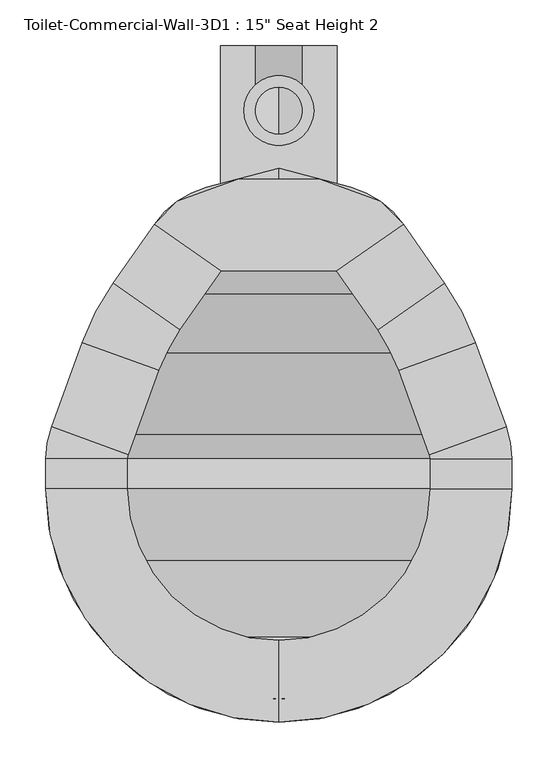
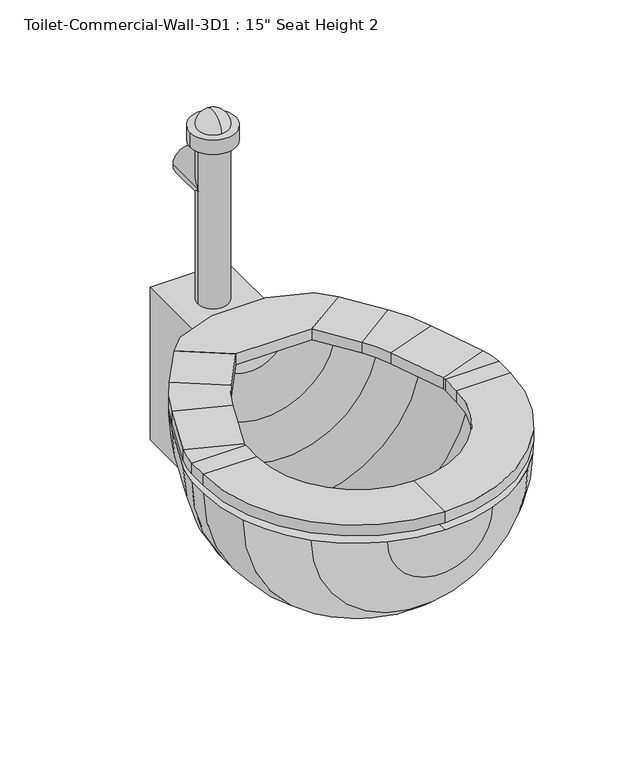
"""IFC4 building model written with IfcOpenShell, lengths in millimetres: flow terminal geometry."""

from ifc_helpers import new_model, si_unit, point, frame, frame_2d, origin, place, context, project, spatial, polyline, circle_curve, ellipse_curve, trimmed, segment, composite_curve, outline, extrude, source, transform, mapped, element, save
from ifc_brep_helpers import plane_surface, cylinder_surface, revolved_surface, advanced_brep


def flow_terminal_f7b7a87d(model_context):
    return source(origin(), model_context, "Body", "SolidModel", [
        extrude(outline(polyline([(467.7541169, -416.4847495), (342.0521907, -416.4847495), (269.229574, -365.4938043), (294.1800557, -340.5433226), (360.2423986, -316.4985961), (449.563909, -316.4985961), (515.6262519, -340.5433226), (540.5767337, -365.4938043), (467.7541169, -416.4847495)])), frame((0.0, 0.0, 355.6), z_axis=(0.0, 0.0, 1.0), x_axis=(1.0, 0.0, 0.0)), (0.0, 0.0, 1.0), 19.05),
        advanced_brep(
        [(467.7541169, -416.4847495, 355.6), (467.7541169, -416.4847495, 374.65), (540.5767337, -365.4938043, 374.65), (540.5767337, -365.4938043, 355.6), (585.6810159, -429.9093951, 355.6), (512.8583992, -480.9003403, 355.6), (585.6810159, -429.9093951, 374.65), (512.8583992, -480.9003403, 374.65), (619.360053, -494.6062234, 355.6), (535.821379, -525.0118141, 355.6), (619.360053, -494.6062234, 374.65), (535.821379, -525.0118141, 374.65), (652.7759241, -586.4155747, 355.6), (569.2372501, -616.8211654, 355.6), (652.7759241, -586.4155747, 374.65), (569.2372501, -616.8211654, 374.65), (658.9031538, -621.1648212, 355.6), (570.0031538, -621.1648212, 355.6), (658.9031538, -621.1648212, 374.65), (570.0031538, -621.1648212, 374.65), (658.9031538, -654.05, 355.6), (570.0031538, -654.05, 355.6), (658.9031538, -654.05, 374.65), (570.0031538, -654.05, 374.65), (404.9031538, -908.05, 355.6), (404.9031538, -819.15, 355.6), (404.9031538, -908.05, 374.65), (404.9031538, -819.15, 374.65), (150.9031538, -654.05, 355.6), (239.8031538, -654.05, 355.6), (150.9031538, -654.05, 374.65), (239.8031538, -654.05, 374.65), (150.9031538, -621.1648212, 355.6), (239.8031538, -621.1648212, 355.6), (150.9031538, -621.1648212, 374.65), (239.8031538, -621.1648212, 374.65), (157.0303835, -586.4155747, 355.6), (240.5690575, -616.8211654, 355.6), (157.0303835, -586.4155747, 374.65), (240.5690575, -616.8211654, 374.65), (190.4462546, -494.6062234, 355.6), (273.9849286, -525.0118141, 355.6), (190.4462546, -494.6062234, 374.65), (273.9849286, -525.0118141, 374.65), (224.1252917, -429.9093951, 355.6), (296.9479084, -480.9003403, 355.6), (224.1252917, -429.9093951, 374.65), (296.9479084, -480.9003403, 374.65), (342.0521907, -416.4847495, 355.6), (269.229574, -365.4938043, 355.6), (269.229574, -365.4938043, 374.65), (342.0521907, -416.4847495, 374.65)],
        [
            (0, 1),
            (1, 2),
            (2, 3),
            (3, 0),
            (3, 4),
            (4, 5),
            (5, 0),
            (2, 6),
            (6, 4),
            (1, 7),
            (7, 6),
            (5, 7),
            (8, 9),
            (9, 5, circle_curve(frame((356.8099347, -590.1666514, 355.6), z_axis=(0.0, 0.0, 1.0), x_axis=(0.81915204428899, 0.5735764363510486, 0.0)), 190.5)),
            (4, 8, circle_curve(frame((356.8099347, -590.1666514, 355.6), z_axis=(0.0, 0.0, -1.0), x_axis=(0.81915204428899, 0.5735764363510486, 0.0)), 279.4)),
            (10, 8),
            (6, 10, circle_curve(frame((356.8099347, -590.1666514, 374.65), z_axis=(0.0, 0.0, -1.0), x_axis=(0.81915204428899, 0.5735764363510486, 0.0)), 279.4)),
            (11, 10),
            (7, 11, circle_curve(frame((356.8099347, -590.1666514, 374.65), z_axis=(0.0, 0.0, -1.0), x_axis=(0.81915204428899, 0.5735764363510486, 0.0)), 190.5)),
            (9, 11),
            (8, 12),
            (12, 13),
            (13, 9),
            (10, 14),
            (14, 12),
            (11, 15),
            (15, 14),
            (13, 15),
            (16, 17),
            (17, 13, circle_curve(frame((557.3031538, -621.1648212, 355.6), z_axis=(0.0, 0.0, 1.0), x_axis=(0.9396926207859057, 0.3420201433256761, 0.0)), 12.7)),
            (12, 16, circle_curve(frame((557.3031538, -621.1648212, 355.6), z_axis=(0.0, 0.0, -1.0), x_axis=(0.9396926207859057, 0.3420201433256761, 0.0)), 101.6)),
            (18, 16),
            (14, 18, circle_curve(frame((557.3031538, -621.1648212, 374.65), z_axis=(0.0, 0.0, -1.0), x_axis=(0.9396926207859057, 0.3420201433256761, 0.0)), 101.6)),
            (19, 18),
            (15, 19, circle_curve(frame((557.3031538, -621.1648212, 374.65), z_axis=(0.0, 0.0, -1.0), x_axis=(0.9396926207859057, 0.3420201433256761, 0.0)), 12.7)),
            (17, 19),
            (16, 20),
            (20, 21),
            (21, 17),
            (18, 22),
            (22, 20),
            (19, 23),
            (23, 22),
            (21, 23),
            (24, 25),
            (25, 21, circle_curve(frame((404.9031538, -654.05, 355.6), z_axis=(0.0, 0.0, 1.0), x_axis=(1.0, 0.0, 0.0)), 165.1)),
            (20, 24, circle_curve(frame((404.9031538, -654.05, 355.6), z_axis=(0.0, 0.0, -1.0), x_axis=(1.0, 0.0, 0.0)), 254.0)),
            (26, 24),
            (22, 26, circle_curve(frame((404.9031538, -654.05, 374.65), z_axis=(0.0, 0.0, -1.0), x_axis=(1.0, 0.0, 0.0)), 254.0)),
            (27, 26),
            (23, 27, circle_curve(frame((404.9031538, -654.05, 374.65), z_axis=(0.0, 0.0, -1.0), x_axis=(1.0, 0.0, 0.0)), 165.1)),
            (25, 27),
            (28, 29),
            (29, 25, circle_curve(frame((404.9031538, -654.05, 355.6), z_axis=(0.0, 0.0, 1.0), x_axis=(0.0, -1.0, 0.0)), 165.1)),
            (24, 28, circle_curve(frame((404.9031538, -654.05, 355.6), z_axis=(0.0, 0.0, -1.0), x_axis=(0.0, -1.0, 0.0)), 254.0)),
            (30, 28),
            (26, 30, circle_curve(frame((404.9031538, -654.05, 374.65), z_axis=(0.0, 0.0, -1.0), x_axis=(0.0, -1.0, 0.0)), 254.0)),
            (31, 30),
            (27, 31, circle_curve(frame((404.9031538, -654.05, 374.65), z_axis=(0.0, 0.0, -1.0), x_axis=(0.0, -1.0, 0.0)), 165.1)),
            (29, 31),
            (28, 32),
            (32, 33),
            (33, 29),
            (30, 34),
            (34, 32),
            (31, 35),
            (35, 34),
            (33, 35),
            (36, 37),
            (37, 33, circle_curve(frame((252.5031538, -621.1648212, 355.6), z_axis=(0.0, 0.0, 1.0), x_axis=(-1.0, 0.0, 0.0)), 12.7)),
            (32, 36, circle_curve(frame((252.5031538, -621.1648212, 355.6), z_axis=(0.0, 0.0, -1.0), x_axis=(-1.0, 0.0, 0.0)), 101.6)),
            (38, 36),
            (34, 38, circle_curve(frame((252.5031538, -621.1648212, 374.65), z_axis=(0.0, 0.0, -1.0), x_axis=(-1.0, 0.0, 0.0)), 101.6)),
            (39, 38),
            (35, 39, circle_curve(frame((252.5031538, -621.1648212, 374.65), z_axis=(0.0, 0.0, -1.0), x_axis=(-1.0, 0.0, 0.0)), 12.7)),
            (37, 39),
            (36, 40),
            (40, 41),
            (41, 37),
            (38, 42),
            (42, 40),
            (39, 43),
            (43, 42),
            (41, 43),
            (44, 45),
            (45, 41, circle_curve(frame((452.9963729, -590.1666514, 355.6), z_axis=(0.0, 0.0, 1.0), x_axis=(-0.939692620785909, 0.3420201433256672, 0.0)), 190.5)),
            (40, 44, circle_curve(frame((452.9963729, -590.1666514, 355.6), z_axis=(0.0, 0.0, -1.0), x_axis=(-0.939692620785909, 0.3420201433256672, 0.0)), 279.4)),
            (46, 44),
            (42, 46, circle_curve(frame((452.9963729, -590.1666514, 374.65), z_axis=(0.0, 0.0, -1.0), x_axis=(-0.939692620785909, 0.3420201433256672, 0.0)), 279.4)),
            (47, 46),
            (43, 47, circle_curve(frame((452.9963729, -590.1666514, 374.65), z_axis=(0.0, 0.0, -1.0), x_axis=(-0.939692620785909, 0.3420201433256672, 0.0)), 190.5)),
            (45, 47),
            (48, 49),
            (49, 50),
            (50, 51),
            (51, 48),
            (44, 49),
            (48, 45),
            (46, 50),
            (47, 51),
        ],
        [
            plane_surface(frame((540.5767337, -365.4938043, 437.2995365), z_axis=(-0.5735764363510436, 0.8191520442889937, 0.0), x_axis=(0.8191520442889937, 0.5735764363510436, 0.0))),
            plane_surface(frame((467.7541169, -416.4847495, 355.6), z_axis=(0.0, 0.0, -1.0), x_axis=(0.5735764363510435, -0.8191520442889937, 0.0))),
            plane_surface(frame((540.5767337, -365.4938043, 355.6), z_axis=(0.8191520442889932, 0.5735764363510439, 0.0), x_axis=(0.5735764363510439, -0.8191520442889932, 0.0))),
            plane_surface(frame((540.5767337, -365.4938043, 374.65), z_axis=(0.0, 0.0, 1.0), x_axis=(0.573576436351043, -0.819152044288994, 0.0))),
            plane_surface(frame((467.7541169, -416.4847495, 374.65), z_axis=(-0.8191520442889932, -0.5735764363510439, 0.0), x_axis=(0.5735764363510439, -0.8191520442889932, 0.0))),
            plane_surface(frame((356.8099347, -590.1666514, 355.6), z_axis=(0.0, 0.0, -1.0), x_axis=(0.81915204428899, 0.5735764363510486, 0.0))),
            cylinder_surface(frame((356.8099347, -590.1666514, 342.9), z_axis=(0.0, 0.0, 1.0), x_axis=(0.81915204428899, 0.5735764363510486, 0.0)), 279.4),
            plane_surface(frame((356.8099347, -590.1666514, 374.65), z_axis=(0.0, 0.0, 1.0), x_axis=(0.81915204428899, 0.5735764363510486, 0.0))),
            revolved_surface(polyline([(512.8583991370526, -480.90034027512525, 374.65), (512.8583991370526, -480.90034027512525, 355.6)]), (356.8099347, -590.1666514, 342.9), (0.0, 0.0, 1.0)),
            plane_surface(frame((535.821379, -525.0118141, 355.6), z_axis=(0.0, 0.0, -1.0000000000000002), x_axis=(0.3420201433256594, -0.9396926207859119, 0.0))),
            plane_surface(frame((619.360053, -494.6062234, 355.6), z_axis=(0.939692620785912, 0.34202014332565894, 0.0), x_axis=(0.34202014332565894, -0.939692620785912, 0.0))),
            plane_surface(frame((619.360053, -494.6062234, 374.65), z_axis=(0.0, 0.0, 1.0), x_axis=(0.34202014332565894, -0.939692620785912, 0.0))),
            plane_surface(frame((535.821379, -525.0118141, 374.65), z_axis=(-0.9396926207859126, -0.3420201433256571, 0.0), x_axis=(0.3420201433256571, -0.9396926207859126, 0.0))),
            plane_surface(frame((557.3031538, -621.1648212, 355.6), z_axis=(0.0, 0.0, -1.0000000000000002), x_axis=(0.9396926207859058, 0.34202014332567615, 0.0))),
            cylinder_surface(frame((557.3031538, -621.1648212, 342.9), z_axis=(0.0, 0.0, 1.0), x_axis=(0.9396926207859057, 0.3420201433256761, 0.0)), 101.6),
            plane_surface(frame((557.3031538, -621.1648212, 374.65), z_axis=(0.0, 0.0, 1.0000000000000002), x_axis=(0.9396926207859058, 0.34202014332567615, 0.0))),
            revolved_surface(polyline([(569.237250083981, -616.8211653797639, 374.65), (569.237250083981, -616.8211653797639, 355.6)]), (557.3031538, -621.1648212, 342.9), (0.0, 0.0, 1.0)),
            plane_surface(frame((570.0031538, -621.1648212, 355.6), z_axis=(0.0, 0.0, -1.0), x_axis=(0.0, -1.0, 0.0))),
            plane_surface(frame((658.9031538, -621.1648212, 355.6), z_axis=(1.0, 0.0, 0.0), x_axis=(0.0, -1.0, 0.0))),
            plane_surface(frame((658.9031538, -621.1648212, 374.65), z_axis=(0.0, 0.0, 1.0), x_axis=(0.0, -1.0, 0.0))),
            plane_surface(frame((570.0031538, -621.1648212, 374.65), z_axis=(-1.0, 0.0, 0.0), x_axis=(0.0, -1.0, 0.0))),
            plane_surface(frame((404.9031538, -654.05, 355.6), z_axis=(0.0, 0.0, -1.0), x_axis=(1.0, 0.0, 0.0))),
            cylinder_surface(frame((404.9031538, -654.05, 342.9), z_axis=(0.0, 0.0, 1.0), x_axis=(1.0, 0.0, 0.0)), 254.0),
            plane_surface(frame((404.9031538, -654.05, 374.65), z_axis=(0.0, 0.0, 1.0), x_axis=(1.0, 0.0, 0.0))),
            revolved_surface(polyline([(570.0031538, -654.05, 374.65), (570.0031538, -654.05, 355.6)]), (404.9031538, -654.05, 342.9), (0.0, 0.0, 1.0)),
            plane_surface(frame((404.9031538, -654.05, 355.6), z_axis=(0.0, 0.0, -1.0), x_axis=(0.0, -1.0, 0.0))),
            cylinder_surface(frame((404.9031538, -654.05, 342.9), z_axis=(0.0, 0.0, 1.0), x_axis=(0.0, -1.0, 0.0)), 254.0),
            plane_surface(frame((404.9031538, -654.05, 374.65), z_axis=(0.0, 0.0, 1.0), x_axis=(0.0, -1.0, 0.0))),
            revolved_surface(polyline([(404.9031538, -819.15, 374.65), (404.9031538, -819.15, 355.6)]), (404.9031538, -654.05, 342.9), (0.0, 0.0, 1.0)),
            plane_surface(frame((239.8031538, -654.05, 355.6), z_axis=(0.0, 0.0, -1.0), x_axis=(0.0, 1.0, 0.0))),
            plane_surface(frame((150.9031538, -654.05, 355.6), z_axis=(-1.0, 0.0, 0.0), x_axis=(0.0, 1.0, 0.0))),
            plane_surface(frame((150.9031538, -654.05, 374.65), z_axis=(0.0, 0.0, 1.0), x_axis=(0.0, 1.0, 0.0))),
            plane_surface(frame((239.8031538, -654.05, 374.65), z_axis=(1.0, 0.0, 0.0), x_axis=(0.0, 1.0, 0.0))),
            plane_surface(frame((252.5031538, -621.1648212, 355.6), z_axis=(0.0, 0.0, -1.0), x_axis=(-1.0, 0.0, 0.0))),
            cylinder_surface(frame((252.5031538, -621.1648212, 342.9), z_axis=(0.0, 0.0, 1.0), x_axis=(-1.0, 0.0, 0.0)), 101.6),
            plane_surface(frame((252.5031538, -621.1648212, 374.65), z_axis=(0.0, 0.0, 1.0), x_axis=(-1.0, 0.0, 0.0))),
            revolved_surface(polyline([(239.80315380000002, -621.1648212, 374.65), (239.80315380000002, -621.1648212, 355.6)]), (252.5031538, -621.1648212, 342.9), (0.0, 0.0, 1.0)),
            plane_surface(frame((240.5690575, -616.8211654, 355.6), z_axis=(0.0, 0.0, -1.0), x_axis=(0.3420201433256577, 0.9396926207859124, 0.0))),
            plane_surface(frame((157.0303835, -586.4155747, 355.6), z_axis=(-0.9396926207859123, 0.3420201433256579, 0.0), x_axis=(0.3420201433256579, 0.9396926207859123, 0.0))),
            plane_surface(frame((157.0303835, -586.4155747, 374.65), z_axis=(0.0, 0.0, 1.0000000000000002), x_axis=(0.34202014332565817, 0.9396926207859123, 0.0))),
            plane_surface(frame((240.5690575, -616.8211654, 374.65), z_axis=(0.9396926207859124, -0.3420201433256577, 0.0), x_axis=(0.3420201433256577, 0.9396926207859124, 0.0))),
            plane_surface(frame((452.9963729, -590.1666514, 355.6), z_axis=(0.0, 0.0, -1.0), x_axis=(-0.939692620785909, 0.3420201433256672, 0.0))),
            cylinder_surface(frame((452.9963729, -590.1666514, 342.9), z_axis=(0.0, 0.0, 1.0), x_axis=(-0.939692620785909, 0.3420201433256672, 0.0)), 279.4),
            plane_surface(frame((452.9963729, -590.1666514, 374.65), z_axis=(0.0, 0.0, 1.0), x_axis=(-0.939692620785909, 0.3420201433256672, 0.0))),
            revolved_surface(polyline([(273.98492864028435, -525.0118140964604, 374.65), (273.98492864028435, -525.0118140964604, 355.6)]), (452.9963729, -590.1666514, 342.9), (0.0, 0.0, 1.0)),
            plane_surface(frame((269.229574, -365.4938043, 248.5004635), z_axis=(0.5735764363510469, 0.8191520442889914, 0.0), x_axis=(0.8191520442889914, -0.5735764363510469, 0.0))),
            plane_surface(frame((296.9479084, -480.9003403, 355.6), z_axis=(0.0, 0.0, -1.0), x_axis=(0.5735764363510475, 0.8191520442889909, 0.0))),
            plane_surface(frame((224.1252917, -429.9093951, 355.6), z_axis=(-0.8191520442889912, 0.5735764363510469, 0.0), x_axis=(0.5735764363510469, 0.8191520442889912, 0.0))),
            plane_surface(frame((224.1252917, -429.9093951, 374.65), z_axis=(0.0, 0.0, 1.0), x_axis=(0.5735764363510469, 0.8191520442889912, 0.0))),
            plane_surface(frame((296.9479084, -480.9003403, 374.65), z_axis=(0.8191520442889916, -0.5735764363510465, 0.0), x_axis=(0.5735764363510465, 0.8191520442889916, 0.0))),
        ],
        [
            (0, [[1, 2, 3, 4]]),
            (1, [[5, 6, 7, -4]]),
            (2, [[8, 9, -5, -3]]),
            (3, [[10, 11, -8, -2]]),
            (4, [[-7, 12, -10, -1]]),
            (5, [[13, 14, -6, 15]]),
            (6, [[16, -15, -9, 17]]),
            (7, [[18, -17, -11, 19]]),
            (8, [[20, -19, -12, -14]]),
            (9, [[21, 22, 23, -13]]),
            (10, [[24, 25, -21, -16]]),
            (11, [[26, 27, -24, -18]]),
            (12, [[-23, 28, -26, -20]]),
            (13, [[29, 30, -22, 31]]),
            (14, [[32, -31, -25, 33]]),
            (15, [[34, -33, -27, 35]]),
            (16, [[36, -35, -28, -30]]),
            (17, [[37, 38, 39, -29]]),
            (18, [[40, 41, -37, -32]]),
            (19, [[42, 43, -40, -34]]),
            (20, [[-39, 44, -42, -36]]),
            (21, [[45, 46, -38, 47]]),
            (22, [[48, -47, -41, 49]]),
            (23, [[50, -49, -43, 51]]),
            (24, [[52, -51, -44, -46]]),
            (25, [[53, 54, -45, 55]]),
            (26, [[56, -55, -48, 57]]),
            (27, [[58, -57, -50, 59]]),
            (28, [[60, -59, -52, -54]]),
            (29, [[61, 62, 63, -53]]),
            (30, [[64, 65, -61, -56]]),
            (31, [[66, 67, -64, -58]]),
            (32, [[-63, 68, -66, -60]]),
            (33, [[69, 70, -62, 71]]),
            (34, [[72, -71, -65, 73]]),
            (35, [[74, -73, -67, 75]]),
            (36, [[76, -75, -68, -70]]),
            (37, [[77, 78, 79, -69]]),
            (38, [[80, 81, -77, -72]]),
            (39, [[82, 83, -80, -74]]),
            (40, [[-79, 84, -82, -76]]),
            (41, [[85, 86, -78, 87]]),
            (42, [[88, -87, -81, 89]]),
            (43, [[90, -89, -83, 91]]),
            (44, [[92, -91, -84, -86]]),
            (45, [[93, 94, 95, 96]]),
            (46, [[97, -93, 98, -85]]),
            (47, [[99, -94, -97, -88]]),
            (48, [[100, -95, -99, -90]]),
            (49, [[-98, -96, -100, -92]]),
        ],
    ),
        advanced_brep(
        [(491.7762702, -892.7319257, 342.9), (584.5082762, -833.6551224, 342.9), (643.5850795, -740.9231164, 342.9), (658.9031538, -654.05, 342.9), (658.9031538, -621.1648212, 342.9), (652.7759241, -586.4155747, 342.9), (619.360053, -494.6062234, 342.9), (585.6810159, -429.9093951, 342.9), (540.5767337, -365.4938043, 342.9), (483.6469009, -325.6311063, 342.9), (404.9031538, -304.5317829, 342.9), (404.9031538, -330.8277978, 342.9), (468.1430637, -347.7728806, 342.9), (525.0728964, -387.6355786, 342.9), (562.9565296, -441.7390139, 342.9), (596.6355667, -506.4358422, 342.9), (628.9077315, -595.1028863, 342.9), (633.5031538, -621.1648212, 342.9), (633.5031538, -654.05, 342.9), (619.7168869, -732.2358048, 342.9), (566.547764, -815.6946102, 342.9), (483.0889586, -868.8637331, 342.9), (404.9031538, -882.65, 342.9), (404.9031538, -908.05, 342.9), (318.0300374, -892.7319257, 342.9), (326.7173491, -868.8637331, 342.9), (243.2585436, -815.6946102, 342.9), (190.0894207, -732.2358048, 342.9), (176.3031538, -654.05, 342.9), (176.3031538, -621.1648212, 342.9), (180.8985761, -595.1028863, 342.9), (213.1707409, -506.4358422, 342.9), (246.849778, -441.7390139, 342.9), (284.7334112, -387.6355786, 342.9), (341.663244, -347.7728806, 342.9), (326.1594067, -325.6311063, 342.9), (269.229574, -365.4938043, 342.9), (224.1252917, -429.9093951, 342.9), (190.4462546, -494.6062234, 342.9), (157.0303835, -586.4155747, 342.9), (150.9031538, -621.1648212, 342.9), (150.9031538, -654.05, 342.9), (166.2212281, -740.9231164, 342.9), (225.2980314, -833.6551224, 342.9)],
        [
            (0, 1, circle_curve(frame((404.9031538, -654.05, 342.9), z_axis=(0.0, 0.0, 1.0), x_axis=(1.0, 0.0, 0.0)), 254.0)),
            (1, 2, circle_curve(frame((404.9031538, -654.05, 342.9), z_axis=(0.0, 0.0, 1.0), x_axis=(1.0, 0.0, 0.0)), 254.0)),
            (2, 3, circle_curve(frame((404.9031538, -654.05, 342.9), z_axis=(0.0, 0.0, 1.0), x_axis=(1.0, 0.0, 0.0)), 254.0)),
            (3, 4),
            (4, 5, circle_curve(frame((557.3031538, -621.1648212, 342.9), z_axis=(0.0, 0.0, 1.0), x_axis=(1.0, 0.0, 0.0)), 101.6)),
            (5, 6),
            (6, 7, circle_curve(frame((356.8099347, -590.1666514, 342.9), z_axis=(0.0, 0.0, 1.0), x_axis=(1.0, 0.0, 0.0)), 279.4)),
            (7, 8),
            (8, 9, circle_curve(frame((457.350886, -423.7691703, 342.9), z_axis=(0.0, 0.0, 1.0), x_axis=(1.0, 0.0, 0.0)), 101.6)),
            (9, 10),
            (10, 11),
            (11, 12),
            (12, 13, circle_curve(frame((441.8470487, -445.9109446, 342.9), z_axis=(0.0, 0.0, -1.0), x_axis=(1.0, 0.0, 0.0)), 101.6)),
            (13, 14),
            (14, 15, circle_curve(frame((334.0854485, -601.9962703, 342.9), z_axis=(0.0, 0.0, -1.0), x_axis=(1.0, 0.0, 0.0)), 279.4)),
            (15, 16),
            (16, 17, circle_curve(frame((557.3031538, -621.1648212, 342.9), z_axis=(0.0, 0.0, -1.0), x_axis=(1.0, 0.0, 0.0)), 76.2)),
            (17, 18),
            (18, 19, circle_curve(frame((404.9031538, -654.05, 342.9), z_axis=(0.0, 0.0, -1.0), x_axis=(1.0, 0.0, 0.0)), 228.6)),
            (19, 20, circle_curve(frame((404.9031538, -654.05, 342.9), z_axis=(0.0, 0.0, -1.0), x_axis=(1.0, 0.0, 0.0)), 228.6)),
            (20, 21, circle_curve(frame((404.9031538, -654.05, 342.9), z_axis=(0.0, 0.0, -1.0), x_axis=(1.0, 0.0, 0.0)), 228.6)),
            (21, 22, circle_curve(frame((404.9031538, -654.05, 342.9), z_axis=(0.0, 0.0, -1.0), x_axis=(1.0, 0.0, 0.0)), 228.6)),
            (22, 23),
            (23, 0, circle_curve(frame((404.9031538, -654.05, 342.9), z_axis=(0.0, 0.0, 1.0), x_axis=(1.0, 0.0, 0.0)), 254.0)),
            (24, 23, circle_curve(frame((404.9031538, -654.05, 342.9), z_axis=(0.0, 0.0, 1.0), x_axis=(-1.0, 0.0, 0.0)), 254.0)),
            (22, 25, circle_curve(frame((404.9031538, -654.05, 342.9), z_axis=(0.0, 0.0, -1.0), x_axis=(-1.0, 0.0, 0.0)), 228.6)),
            (25, 26, circle_curve(frame((404.9031538, -654.05, 342.9), z_axis=(0.0, 0.0, -1.0), x_axis=(-1.0, 0.0, 0.0)), 228.6)),
            (26, 27, circle_curve(frame((404.9031538, -654.05, 342.9), z_axis=(0.0, 0.0, -1.0), x_axis=(-1.0, 0.0, 0.0)), 228.6)),
            (27, 28, circle_curve(frame((404.9031538, -654.05, 342.9), z_axis=(0.0, 0.0, -1.0), x_axis=(-1.0, 0.0, 0.0)), 228.6)),
            (28, 29),
            (29, 30, circle_curve(frame((252.5031538, -621.1648212, 342.9), z_axis=(0.0, 0.0, -1.0), x_axis=(-1.0, 0.0, 0.0)), 76.2)),
            (30, 31),
            (31, 32, circle_curve(frame((475.7208592, -601.9962703, 342.9), z_axis=(0.0, 0.0, -1.0), x_axis=(-1.0, 0.0, 0.0)), 279.4)),
            (32, 33),
            (33, 34, circle_curve(frame((367.9592589, -445.9109446, 342.9), z_axis=(0.0, 0.0, -1.0), x_axis=(-1.0, 0.0, 0.0)), 101.6)),
            (34, 11),
            (10, 35),
            (35, 36, circle_curve(frame((352.4554217, -423.7691703, 342.9), z_axis=(0.0, 0.0, 1.0), x_axis=(-1.0, 0.0, 0.0)), 101.6)),
            (36, 37),
            (37, 38, circle_curve(frame((452.9963729, -590.1666514, 342.9), z_axis=(0.0, 0.0, 1.0), x_axis=(-1.0, 0.0, 0.0)), 279.4)),
            (38, 39),
            (39, 40, circle_curve(frame((252.5031538, -621.1648212, 342.9), z_axis=(0.0, 0.0, 1.0), x_axis=(-1.0, 0.0, 0.0)), 101.6)),
            (40, 41),
            (41, 42, circle_curve(frame((404.9031538, -654.05, 342.9), z_axis=(0.0, 0.0, 1.0), x_axis=(-1.0, 0.0, 0.0)), 254.0)),
            (42, 43, circle_curve(frame((404.9031538, -654.05, 342.9), z_axis=(0.0, 0.0, 1.0), x_axis=(-1.0, 0.0, 0.0)), 254.0)),
            (43, 24, circle_curve(frame((404.9031538, -654.05, 342.9), z_axis=(0.0, 0.0, 1.0), x_axis=(-1.0, 0.0, 0.0)), 254.0)),
            (24, 0, circle_curve(frame((404.9031538, -892.7319257, 342.9), z_axis=(0.0, -1.0, 0.0), x_axis=(1.0, 0.0, 0.0)), 86.8731164)),
            (21, 25, circle_curve(frame((404.9031538, -868.8637331, 342.9), z_axis=(0.0, 1.0, 0.0), x_axis=(1.0, 0.0, 0.0)), 78.1858048)),
            (20, 26, circle_curve(frame((404.9031538, -815.6946102, 342.9), z_axis=(0.0, 1.0, 0.0), x_axis=(1.0, 0.0, 0.0)), 161.6446102)),
            (19, 27, circle_curve(frame((404.9031538, -732.2358048, 342.9), z_axis=(0.0, 1.0, 0.0), x_axis=(1.0, 0.0, 0.0)), 214.8137331)),
            (18, 28, circle_curve(frame((404.9031538, -654.05, 342.9), z_axis=(0.0, 1.0, 0.0), x_axis=(1.0, 0.0, 0.0)), 228.6)),
            (17, 29, circle_curve(frame((404.9031538, -621.1648212, 342.9), z_axis=(0.0, 1.0, 0.0), x_axis=(1.0, 0.0, 0.0)), 228.6)),
            (16, 30, circle_curve(frame((404.9031538, -595.1028863, 342.9), z_axis=(0.0, 1.0, 0.0), x_axis=(1.0, 0.0, 0.0)), 224.0045777)),
            (15, 31, circle_curve(frame((404.9031538, -506.4358422, 342.9), z_axis=(0.0, 1.0, 0.0), x_axis=(1.0, 0.0, 0.0)), 191.7324129)),
            (14, 32, circle_curve(frame((404.9031538, -441.7390139, 342.9), z_axis=(0.0, 1.0, 0.0), x_axis=(1.0, 0.0, 0.0)), 158.0533758)),
            (13, 33, circle_curve(frame((404.9031538, -387.6355786, 342.9), z_axis=(0.0, 1.0, 0.0), x_axis=(1.0, 0.0, 0.0)), 120.1697426)),
            (12, 34, circle_curve(frame((404.9031538, -347.7728806, 342.9), z_axis=(0.0, 1.0, 0.0), x_axis=(1.0, 0.0, 0.0)), 63.2399099)),
            (9, 35, circle_curve(frame((404.9031538, -325.6311063, 342.9), z_axis=(0.0, 1.0, 0.0), x_axis=(1.0, 0.0, 0.0)), 78.7437471)),
            (8, 36, circle_curve(frame((404.9031538, -365.4938043, 342.9), z_axis=(0.0, 1.0, 0.0), x_axis=(1.0, 0.0, 0.0)), 135.6735798)),
            (7, 37, circle_curve(frame((404.9031538, -429.9093951, 342.9), z_axis=(0.0, 1.0, 0.0), x_axis=(1.0, 0.0, 0.0)), 180.7778621)),
            (6, 38, circle_curve(frame((404.9031538, -494.6062234, 342.9), z_axis=(0.0, 1.0, 0.0), x_axis=(1.0, 0.0, 0.0)), 214.4568992)),
            (5, 39, circle_curve(frame((404.9031538, -586.4155747, 342.9), z_axis=(0.0, 1.0, 0.0), x_axis=(1.0, 0.0, 0.0)), 247.8727703)),
            (4, 40, circle_curve(frame((404.9031538, -621.1648212, 342.9), z_axis=(0.0, 1.0, 0.0), x_axis=(1.0, 0.0, 0.0)), 254.0)),
            (3, 41, circle_curve(frame((404.9031538, -654.05, 342.9), z_axis=(0.0, 1.0, 0.0), x_axis=(1.0, 0.0, 0.0)), 254.0)),
            (2, 42, circle_curve(frame((404.9031538, -740.9231164, 342.9), z_axis=(0.0, 1.0, 0.0), x_axis=(1.0, 0.0, 0.0)), 238.6819257)),
            (1, 43, circle_curve(frame((404.9031538, -833.6551224, 342.9), z_axis=(0.0, 1.0, 0.0), x_axis=(1.0, 0.0, 0.0)), 179.6051224)),
        ],
        [
            plane_surface(frame((404.9031538, -1013.2602448, 342.9), z_axis=(0.0, 0.0, 1.0), x_axis=(1.0, 0.0, 0.0))),
            plane_surface(frame((404.9031538, -1013.2602448, 342.9), z_axis=(0.0, 0.0, 1.0), x_axis=(-1.0, 0.0, 0.0))),
            revolved_surface(trimmed(ellipse_curve(frame((404.9031538, -654.05, 342.9), z_axis=(0.0, 0.0, -1.0), x_axis=(1.0, 0.0, 0.0)), 254.0, 254.0), [point((491.7762702, -892.7319257, 342.9))], [point((404.9031538, -908.05, 342.9))], True, "CARTESIAN"), (404.9031538, -1013.2602448, 342.9), (0.0, -1.0, 0.0)),
            revolved_surface(trimmed(ellipse_curve(frame((404.9031538, -654.05, 342.9), z_axis=(0.0, 0.0, 1.0), x_axis=(1.0, 0.0, 0.0)), 228.6, 228.6), [point((404.9031538, -882.65, 342.9))], [point((483.0889586, -868.8637331, 342.9))], True, "CARTESIAN"), (404.9031538, -1013.2602448, 342.9), (0.0, -1.0, 0.0)),
            revolved_surface(trimmed(ellipse_curve(frame((404.9031538, -654.05, 342.9), z_axis=(0.0, 0.0, 1.0), x_axis=(1.0, 0.0, 0.0)), 228.6, 228.6), [point((483.0889586, -868.8637331, 342.9))], [point((566.547764, -815.6946102, 342.9))], True, "CARTESIAN"), (404.9031538, -1013.2602448, 342.9), (0.0, -1.0, 0.0)),
            revolved_surface(trimmed(ellipse_curve(frame((404.9031538, -654.05, 342.9), z_axis=(0.0, 0.0, 1.0), x_axis=(1.0, 0.0, 0.0)), 228.6, 228.6), [point((566.547764, -815.6946102, 342.9))], [point((619.7168869, -732.2358048, 342.9))], True, "CARTESIAN"), (404.9031538, -1013.2602448, 342.9), (0.0, -1.0, 0.0)),
            revolved_surface(trimmed(ellipse_curve(frame((404.9031538, -654.05, 342.9), z_axis=(0.0, 0.0, 1.0), x_axis=(1.0, 0.0, 0.0)), 228.6, 228.6), [point((619.7168869, -732.2358048, 342.9))], [point((633.5031538, -654.05, 342.9))], True, "CARTESIAN"), (404.9031538, -1013.2602448, 342.9), (0.0, -1.0, 0.0)),
            revolved_surface(polyline([(633.5031538, -654.05, 342.9), (633.5031538, -621.1648212, 342.9)]), (404.9031538, -1013.2602448, 342.9), (0.0, -1.0, 0.0)),
            revolved_surface(trimmed(ellipse_curve(frame((557.3031538, -621.1648212, 342.9), z_axis=(0.0, 0.0, 1.0), x_axis=(1.0, 0.0, 0.0)), 76.2, 76.2), [point((633.5031538, -621.1648212, 342.9))], [point((628.9077315, -595.1028863, 342.9))], True, "CARTESIAN"), (404.9031538, -1013.2602448, 342.9), (0.0, -1.0, 0.0)),
            revolved_surface(polyline([(628.9077315, -595.1028863, 342.9), (596.6355667, -506.4358422, 342.9)]), (404.9031538, -1013.2602448, 342.9), (0.0, -1.0, 0.0)),
            revolved_surface(trimmed(ellipse_curve(frame((334.0854485, -601.9962703, 342.9), z_axis=(0.0, 0.0, 1.0), x_axis=(1.0, 0.0, 0.0)), 279.4, 279.4), [point((596.6355667, -506.4358422, 342.9))], [point((562.9565296, -441.7390139, 342.9))], True, "CARTESIAN"), (404.9031538, -1013.2602448, 342.9), (0.0, -1.0, 0.0)),
            revolved_surface(polyline([(562.9565296, -441.7390139, 342.9), (525.0728964, -387.6355786, 342.9)]), (404.9031538, -1013.2602448, 342.9), (0.0, -1.0, 0.0)),
            revolved_surface(trimmed(ellipse_curve(frame((441.8470487, -445.9109446, 342.9), z_axis=(0.0, 0.0, 1.0), x_axis=(1.0, 0.0, 0.0)), 101.6, 101.6), [point((525.0728964, -387.6355786, 342.9))], [point((468.1430637, -347.7728806, 342.9))], True, "CARTESIAN"), (404.9031538, -1013.2602448, 342.9), (0.0, -1.0, 0.0)),
            revolved_surface(polyline([(468.1430637, -347.7728806, 342.9), (404.9031538, -330.8277978, 342.9)]), (404.9031538, -1013.2602448, 342.9), (0.0, -1.0, 0.0)),
            revolved_surface(polyline([(404.9031538, -304.5317829, 342.9), (483.6469009, -325.6311063, 342.9)]), (404.9031538, -1013.2602448, 342.9), (0.0, -1.0, 0.0)),
            revolved_surface(trimmed(ellipse_curve(frame((457.350886, -423.7691703, 342.9), z_axis=(0.0, 0.0, -1.0), x_axis=(1.0, 0.0, 0.0)), 101.6, 101.6), [point((483.6469009, -325.6311063, 342.9))], [point((540.5767337, -365.4938043, 342.9))], True, "CARTESIAN"), (404.9031538, -1013.2602448, 342.9), (0.0, -1.0, 0.0)),
            revolved_surface(polyline([(540.5767337, -365.4938043, 342.9), (585.6810159, -429.9093951, 342.9)]), (404.9031538, -1013.2602448, 342.9), (0.0, -1.0, 0.0)),
            revolved_surface(trimmed(ellipse_curve(frame((356.8099347, -590.1666514, 342.9), z_axis=(0.0, 0.0, -1.0), x_axis=(1.0, 0.0, 0.0)), 279.4, 279.4), [point((585.6810159, -429.9093951, 342.9))], [point((619.360053, -494.6062234, 342.9))], True, "CARTESIAN"), (404.9031538, -1013.2602448, 342.9), (0.0, -1.0, 0.0)),
            revolved_surface(polyline([(619.360053, -494.6062234, 342.9), (652.7759241, -586.4155747, 342.9)]), (404.9031538, -1013.2602448, 342.9), (0.0, -1.0, 0.0)),
            revolved_surface(trimmed(ellipse_curve(frame((557.3031538, -621.1648212, 342.9), z_axis=(0.0, 0.0, -1.0), x_axis=(1.0, 0.0, 0.0)), 101.6, 101.6), [point((652.7759241, -586.4155747, 342.9))], [point((658.9031538, -621.1648212, 342.9))], True, "CARTESIAN"), (404.9031538, -1013.2602448, 342.9), (0.0, -1.0, 0.0)),
            cylinder_surface(frame((404.9031538, -1013.2602448, 342.9), z_axis=(0.0, -1.0, 0.0), x_axis=(1.0, 0.0, 0.0)), 254.0),
            revolved_surface(trimmed(ellipse_curve(frame((404.9031538, -654.05, 342.9), z_axis=(0.0, 0.0, -1.0), x_axis=(1.0, 0.0, 0.0)), 254.0, 254.0), [point((658.9031538, -654.05, 342.9))], [point((643.5850795, -740.9231164, 342.9))], True, "CARTESIAN"), (404.9031538, -1013.2602448, 342.9), (0.0, -1.0, 0.0)),
            revolved_surface(trimmed(ellipse_curve(frame((404.9031538, -654.05, 342.9), z_axis=(0.0, 0.0, -1.0), x_axis=(1.0, 0.0, 0.0)), 254.0, 254.0), [point((643.5850795, -740.9231164, 342.9))], [point((584.5082762, -833.6551224, 342.9))], True, "CARTESIAN"), (404.9031538, -1013.2602448, 342.9), (0.0, -1.0, 0.0)),
            revolved_surface(trimmed(ellipse_curve(frame((404.9031538, -654.05, 342.9), z_axis=(0.0, 0.0, -1.0), x_axis=(1.0, 0.0, 0.0)), 254.0, 254.0), [point((584.5082762, -833.6551224, 342.9))], [point((491.7762702, -892.7319257, 342.9))], True, "CARTESIAN"), (404.9031538, -1013.2602448, 342.9), (0.0, -1.0, 0.0)),
        ],
        [
            (0, [[1, 2, 3, 4, 5, 6, 7, 8, 9, 10, 11, 12, 13, 14, 15, 16, 17, 18, 19, 20, 21, 22, 23, 24]]),
            (1, [[25, -23, 26, 27, 28, 29, 30, 31, 32, 33, 34, 35, 36, -11, 37, 38, 39, 40, 41, 42, 43, 44, 45, 46]]),
            (2, [[-25, 47, -24]]),
            (3, [[-26, -22, 48]]),
            (4, [[-27, -48, -21, 49]]),
            (5, [[-28, -49, -20, 50]]),
            (6, [[-29, -50, -19, 51]]),
            (7, [[-30, -51, -18, 52]]),
            (8, [[-31, -52, -17, 53]]),
            (9, [[-32, -53, -16, 54]]),
            (10, [[-33, -54, -15, 55]]),
            (11, [[-34, -55, -14, 56]]),
            (12, [[-35, -56, -13, 57]]),
            (13, [[-36, -57, -12]]),
            (14, [[-37, -10, 58]]),
            (15, [[-38, -58, -9, 59]]),
            (16, [[-39, -59, -8, 60]]),
            (17, [[-40, -60, -7, 61]]),
            (18, [[-41, -61, -6, 62]]),
            (19, [[-42, -62, -5, 63]]),
            (20, [[-43, -63, -4, 64]]),
            (21, [[-44, -64, -3, 65]]),
            (22, [[-45, -65, -2, 66]]),
            (23, [[-46, -66, -1, -47]]),
        ],
    ),
        advanced_brep(
        [(404.9031538, -216.3676912, 647.7), (404.9031538, -241.9852737, 673.3175826), (404.9031538, -267.6028563, 647.7), (404.9031538, -241.9852737, 647.7)],
        [
            (0, 1, circle_curve(frame((404.9031538, -241.9852737, 647.7), z_axis=(1.0, 0.0, 0.0), x_axis=(0.0, -1.0, 0.0)), 25.6175826)),
            (1, 2, circle_curve(frame((404.9031538, -241.9852737, 647.7), z_axis=(1.0, 0.0, 0.0), x_axis=(0.0, 1.0, 0.0)), 25.6175826)),
            (2, 0, circle_curve(frame((404.9031538, -241.9852737, 647.7), z_axis=(0.0, 0.0, 1.0), x_axis=(0.0, -1.0, 0.0)), 25.6175826)),
            (0, 2, circle_curve(frame((404.9031538, -241.9852737, 647.7), z_axis=(0.0, 0.0, 1.0), x_axis=(0.0, -1.0, 0.0)), 25.6175826)),
            (3, 0),
            (2, 3),
        ],
        [
            revolved_surface(trimmed(ellipse_curve(frame((404.9031538, -241.9852737, 647.7), z_axis=(1.0, 0.0, 0.0), x_axis=(0.0, 1.0, 0.0)), 25.6175826, 25.6175826), [point((404.9031538, -241.9852737, 673.3175826))], [point((404.9031538, -267.6028563, 647.7))], True, "CARTESIAN"), (404.9031538, -241.9852737, 712.3277273), (0.0, 0.0, -1.0)),
            plane_surface(frame((404.9031538, -241.9852737, 647.7), z_axis=(0.0, 0.0, -1.0), x_axis=(0.0, -1.0, 0.0))),
        ],
        [
            (0, [[1, 2, 3]]),
            (0, [[-2, -1, 4]]),
            (1, [[5, -3, 6]]),
            (1, [[-6, -4, -5]]),
        ],
    ),
        extrude(outline(composite_curve([segment(trimmed(circle_curve(frame_2d((404.9031538, -241.9852737)), 38.1), [point((366.8031538, -241.9852737))], [point((443.0031538, -241.9852737))], False, "CARTESIAN"), True, "CONTINUOUS"), segment(trimmed(circle_curve(frame_2d((404.9031538, -241.9852737)), 38.1), [point((443.0031538, -241.9852737))], [point((366.8031538, -241.9852737))], False, "CARTESIAN"), True, "CONTINUOUS")], self_intersect=False)), frame((0.0, 0.0, 622.3), z_axis=(0.0, 0.0, 1.0), x_axis=(1.0, 0.0, 0.0)), (0.0, 0.0, 1.0), 25.4),
        extrude(outline(composite_curve([segment(trimmed(circle_curve(frame_2d((544.2113641, 404.9031538)), 25.4), [point((544.2113641, 379.5031538))], [point((544.2113641, 430.3031538))], False, "CARTESIAN"), True, "CONTINUOUS"), segment(trimmed(circle_curve(frame_2d((544.2113641, 404.9031538)), 25.4), [point((544.2113641, 430.3031538))], [point((544.2113641, 379.5031538))], False, "CARTESIAN"), True, "CONTINUOUS")], self_intersect=False)), frame((0.0, -242.09375, 0.0), z_axis=(0.0, 1.0, 0.0), x_axis=(0.0, 0.0, 1.0)), (0.0, 0.0, 1.0), 70.64375),
        extrude(outline(polyline([(-324.2537941, 342.9), (-171.45, 342.9), (-171.45, 76.2), (-391.4954017, 76.2), (-471.9926282, 134.0328588), (-367.9603185, 206.8770663), (-324.2537941, 269.296452), (-324.2537941, 342.9)])), frame((341.4031538, 0.0, 0.0), z_axis=(1.0, 0.0, 0.0), x_axis=(0.0, 1.0, 0.0)), (0.0, 0.0, 1.0), 127.0),
        extrude(outline(composite_curve([segment(trimmed(circle_curve(frame_2d((404.9031538, -241.9852737)), 25.4), [point((379.5031538, -241.9852737))], [point((430.3031538, -241.9852737))], False, "CARTESIAN"), True, "CONTINUOUS"), segment(trimmed(circle_curve(frame_2d((404.9031538, -241.9852737)), 25.4), [point((430.3031538, -241.9852737))], [point((379.5031538, -241.9852737))], False, "CARTESIAN"), True, "CONTINUOUS")], self_intersect=False)), frame((0.0, 0.0, 342.9), z_axis=(0.0, 0.0, 1.0), x_axis=(1.0, 0.0, 0.0)), (0.0, 0.0, 1.0), 279.4),
    ])


if __name__ == "__main__":
    model = new_model("IFC4")
    model_context = context("Model", 3, world=origin())
    ifc_project = project(units=[si_unit("LENGTHUNIT", "METRE", prefix="MILLI")], contexts=[model_context])
    site = spatial("IfcSite", under=ifc_project)
    building = spatial("IfcBuilding", under=site)
    placement = place(None, origin())
    flow_terminal_shape = flow_terminal_f7b7a87d(model_context)
    element("IfcFlowTerminal", 1, ObjectType="Toilet-Commercial-Wall-3D1 : 15\" Seat Height 2", at=placement, inside=building, context=model_context, shape_type="MappedRepresentation", body=[
        mapped(flow_terminal_shape, transform((0.0, 0.0, 0.0), x_axis=(1.0, 0.0, 0.0), y_axis=(0.0, 1.0, 0.0), z_axis=(0.0, 0.0, 1.0))),
    ])
    save(model, "model.ifc")
